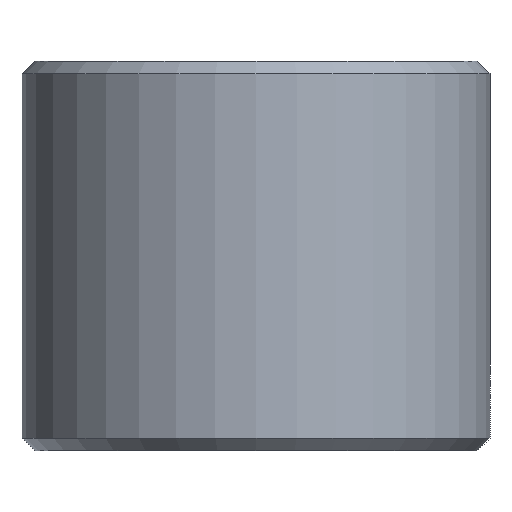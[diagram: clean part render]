
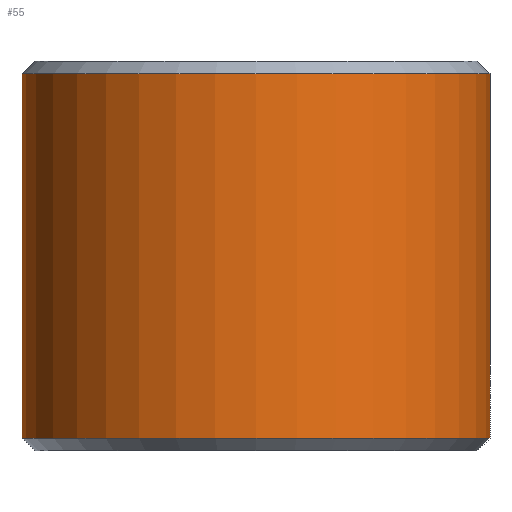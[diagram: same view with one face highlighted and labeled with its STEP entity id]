
A CAD part, front view. The second image highlights one B-rep face of the part: STEP entity #55.
In plain terms, the highlighted cylindrical face has radius 45 mm (diameter 90 mm), a partial arc.
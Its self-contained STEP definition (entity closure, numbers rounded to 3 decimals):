
#1 = FACE_OUTER_BOUND ( 'NONE', #312, .T. ) ;
#16 = EDGE_CURVE ( 'NONE', #332, #167, #194, .T. ) ;
#27 = DIRECTION ( 'NONE',  ( 0., 0., 1. ) ) ;
#36 = CARTESIAN_POINT ( 'NONE',  ( -45., 0., 37.5 ) ) ;
#39 = EDGE_CURVE ( 'NONE', #439, #167, #56, .T. ) ;
#55 = ADVANCED_FACE ( 'NONE', ( #1 ), #240, .T. ) ;
#56 = CIRCLE ( 'NONE', #443, 45. ) ;
#95 = EDGE_CURVE ( 'NONE', #155, #439, #344, .T. ) ;
#96 = CARTESIAN_POINT ( 'NONE',  ( 45., 0., 37.5 ) ) ;
#106 = DIRECTION ( 'NONE',  ( 0., 0., -1. ) ) ;
#155 = VERTEX_POINT ( 'NONE', #377 ) ;
#159 = ORIENTED_EDGE ( 'NONE', *, *, #39, .T. ) ;
#164 = DIRECTION ( 'NONE',  ( 1., 0., 0. ) ) ;
#167 = VERTEX_POINT ( 'NONE', #385 ) ;
#176 = DIRECTION ( 'NONE',  ( 0., 0., -1. ) ) ;
#183 = VECTOR ( 'NONE', #106, 1000. ) ;
#189 = EDGE_CURVE ( 'NONE', #332, #155, #369, .T. ) ;
#194 = LINE ( 'NONE', #96, #329 ) ;
#230 = CARTESIAN_POINT ( 'NONE',  ( 0., 0., 37.5 ) ) ;
#240 = CYLINDRICAL_SURFACE ( 'NONE', #256, 45. ) ;
#242 = AXIS2_PLACEMENT_3D ( 'NONE', #286, #176, #378 ) ;
#256 = AXIS2_PLACEMENT_3D ( 'NONE', #230, #413, #310 ) ;
#259 = ORIENTED_EDGE ( 'NONE', *, *, #95, .T. ) ;
#266 = CARTESIAN_POINT ( 'NONE',  ( 0., 0., -35. ) ) ;
#286 = CARTESIAN_POINT ( 'NONE',  ( 0., 0., 35. ) ) ;
#310 = DIRECTION ( 'NONE',  ( -1., 0., 0. ) ) ;
#312 = EDGE_LOOP ( 'NONE', ( #396, #314, #259, #159 ) ) ;
#314 = ORIENTED_EDGE ( 'NONE', *, *, #189, .T. ) ;
#326 = CARTESIAN_POINT ( 'NONE',  ( 45., 0., 35. ) ) ;
#329 = VECTOR ( 'NONE', #435, 1000. ) ;
#332 = VERTEX_POINT ( 'NONE', #326 ) ;
#344 = LINE ( 'NONE', #36, #183 ) ;
#369 = CIRCLE ( 'NONE', #242, 45. ) ;
#377 = CARTESIAN_POINT ( 'NONE',  ( -45., 0., 35. ) ) ;
#378 = DIRECTION ( 'NONE',  ( 1., 0., 0. ) ) ;
#385 = CARTESIAN_POINT ( 'NONE',  ( 45., 0., -35. ) ) ;
#396 = ORIENTED_EDGE ( 'NONE', *, *, #16, .F. ) ;
#413 = DIRECTION ( 'NONE',  ( 0., 0., -1. ) ) ;
#435 = DIRECTION ( 'NONE',  ( 0., 0., -1. ) ) ;
#436 = CARTESIAN_POINT ( 'NONE',  ( -45., 0., -35. ) ) ;
#439 = VERTEX_POINT ( 'NONE', #436 ) ;
#443 = AXIS2_PLACEMENT_3D ( 'NONE', #266, #27, #164 ) ;
